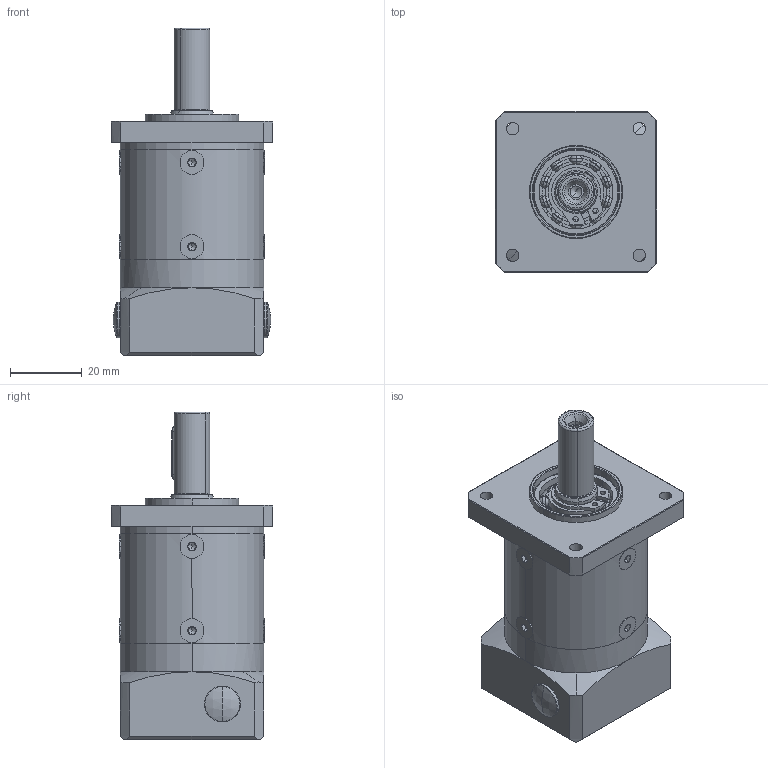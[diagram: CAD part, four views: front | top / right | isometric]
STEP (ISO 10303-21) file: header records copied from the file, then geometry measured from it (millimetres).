
FILE_DESCRIPTION (( 'STEP AP203' ), '1' );
FILE_NAME ('PF40L1-i-P2-S2-8-25-30-46-M4.step', '2020-03-23T09:08:46', ( '个人用户' ), ( '微软中国' ), 'SwSTEP 2.0', 'SolidWorks 2018', '' );
FILE_SCHEMA (( 'CONFIG_CONTROL_DESIGN' ));
Length unit declared in the file: millimetre
Products named in the file (1): PF40L1-i-P2-S2-8-25-30-46-M4
Bounding box: 45 x 45 x 91.5 mm (x, y, z)
Volume: 67933.5 mm3; surface area: 46221.7 mm2
Topology: 29 solids, 29 shells, 1258 faces, 3390 edges, 2138 vertices
Faces by surface type: cylinder 351, plane 262, sphere 250, cone 205, torus 186, bspline 4
Entity records: 48239 total; most frequent: CARTESIAN_POINT 17072, ORIENTED_EDGE 6716, DIRECTION 6483, EDGE_CURVE 3358, AXIS2_PLACEMENT_3D 2893, VERTEX_POINT 2138, CIRCLE 1638, EDGE_LOOP 1442
